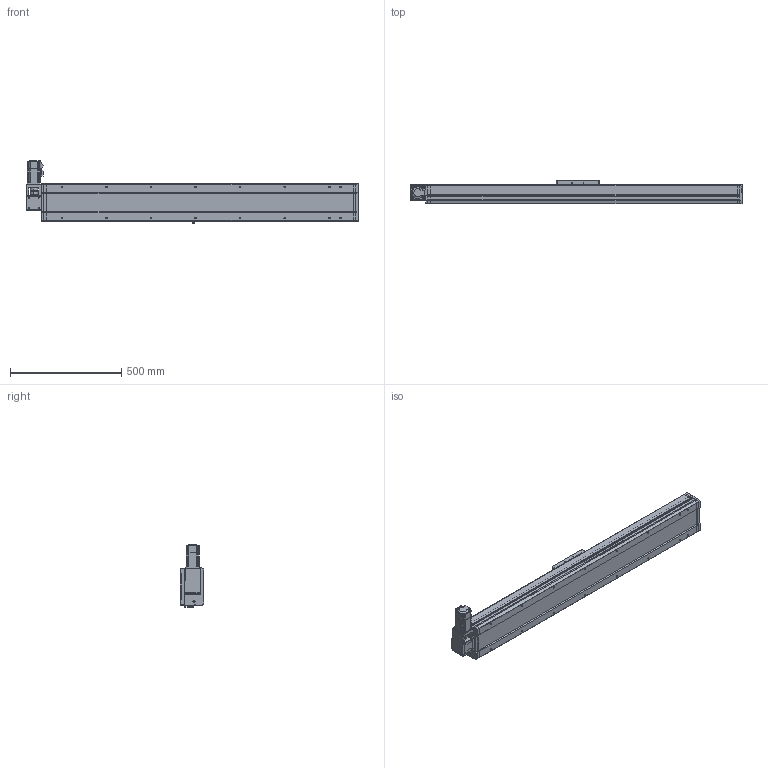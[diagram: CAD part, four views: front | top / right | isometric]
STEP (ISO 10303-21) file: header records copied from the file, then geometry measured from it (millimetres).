
FILE_DESCRIPTION((''),'2;1');
FILE_NAME('170-TZJ3FL-S1100_ASM','2015-12-04T',('lenovo'),(''),'PRO/ENGINEER BY PARAMETRIC TECHNOLOGY CORPORATION, 2010280','PRO/ENGINEER BY PARAMETRIC TECHNOLOGY CORPORATION, 2010280','');
FILE_SCHEMA(('CONFIG_CONTROL_DESIGN'));
Length unit declared in the file: millimetre
Products named in the file (5): 170-TJFL-DZ; 170-HK; 170-HDB-01; 170-TZJ3FL-DJZ; 170-TZJ3FL-S1100_ASM
Assembly tree (4 placements, depth 2):
  170-TZJ3FL-S1100_ASM
    170-TJFL-DZ
    170-HK
    170-HDB-01
    170-TZJ3FL-DJZ
Bounding box: 1489 x 107 x 278.5 mm (x, y, z)
Volume: 11077169.3 mm3; surface area: 1681923.8 mm2
Topology: 6 solids, 30 shells, 1492 faces, 4045 edges, 2697 vertices
Faces by surface type: plane 796, cylinder 555, cone 113, torus 28
Entity records: 47739 total; most frequent: CARTESIAN_POINT 8517, DIRECTION 8388, ORIENTED_EDGE 8090, EDGE_CURVE 4045, AXIS2_PLACEMENT_3D 2884, VERTEX_POINT 2697, VECTOR 2620, LINE 2620
